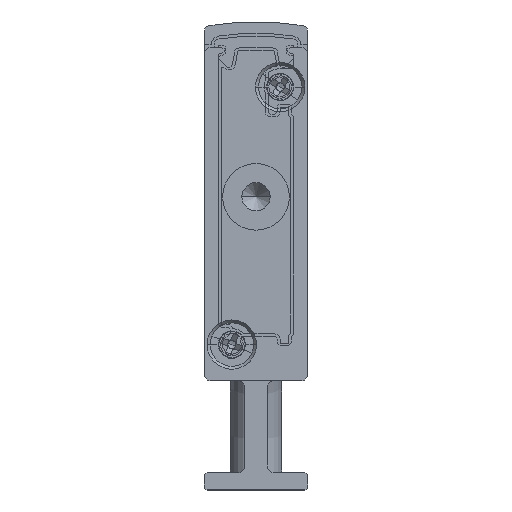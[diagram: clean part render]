
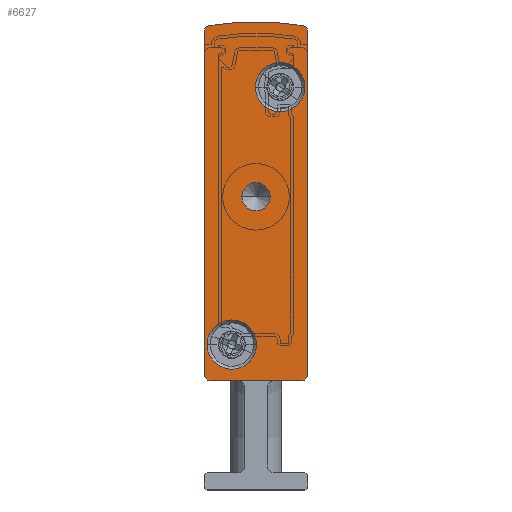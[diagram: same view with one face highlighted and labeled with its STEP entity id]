
A CAD part, front view. The second image highlights one B-rep face of the part: STEP entity #6627.
In plain terms, the highlighted planar face has unit normal (0, -1, 0).
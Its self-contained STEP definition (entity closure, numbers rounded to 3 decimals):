
#663 = CARTESIAN_POINT ( 'NONE',  ( 4.5, -2.5, 17.092 ) ) ;
#718 = ORIENTED_EDGE ( 'NONE', *, *, #5635, .F. ) ;
#758 = CARTESIAN_POINT ( 'NONE',  ( 8.5, -2.5, 39.902 ) ) ;
#771 = ORIENTED_EDGE ( 'NONE', *, *, #19531, .F. ) ;
#1270 = CARTESIAN_POINT ( 'NONE',  ( 2.4, -2.5, 12.65 ) ) ;
#1315 = ORIENTED_EDGE ( 'NONE', *, *, #13215, .T. ) ;
#1468 = CIRCLE ( 'NONE', #13865, 0.5 ) ;
#1487 = VERTEX_POINT ( 'NONE', #17128 ) ;
#1693 = DIRECTION ( 'NONE',  ( 0., -1., 0. ) ) ;
#1925 = AXIS2_PLACEMENT_3D ( 'NONE', #5930, #15158, #7639 ) ;
#2145 = EDGE_CURVE ( 'NONE', #7724, #4573, #16321, .T. ) ;
#2199 = AXIS2_PLACEMENT_3D ( 'NONE', #10268, #11824, #13318 ) ;
#2271 = AXIS2_PLACEMENT_3D ( 'NONE', #19669, #6292, #12348 ) ;
#2578 = CIRCLE ( 'NONE', #19560, 2.15 ) ;
#3015 = ORIENTED_EDGE ( 'NONE', *, *, #4322, .F. ) ;
#3036 = VECTOR ( 'NONE', #16471, 1000. ) ;
#3064 = ORIENTED_EDGE ( 'NONE', *, *, #5894, .F. ) ;
#3106 = VERTEX_POINT ( 'NONE', #18220 ) ;
#3183 = DIRECTION ( 'NONE',  ( 0., 1., 0. ) ) ;
#3215 = DIRECTION ( 'NONE',  ( -1., 0., 0. ) ) ;
#3245 = ORIENTED_EDGE ( 'NONE', *, *, #7806, .F. ) ;
#3405 = FACE_OUTER_BOUND ( 'NONE', #8937, .T. ) ;
#3584 = DIRECTION ( 'NONE',  ( -1., 0., 0. ) ) ;
#3603 = DIRECTION ( 'NONE',  ( -1., 0., 0. ) ) ;
#3708 = CARTESIAN_POINT ( 'NONE',  ( 0.408, -2.5, 40.393 ) ) ;
#3792 = ORIENTED_EDGE ( 'NONE', *, *, #15640, .F. ) ;
#3882 = CARTESIAN_POINT ( 'NONE',  ( 0.25, -2.5, 12.65 ) ) ;
#4086 = CIRCLE ( 'NONE', #18581, 2.15 ) ;
#4322 = EDGE_CURVE ( 'NONE', #18426, #3106, #19568, .T. ) ;
#4408 = CIRCLE ( 'NONE', #5046, 0.5 ) ;
#4573 = VERTEX_POINT ( 'NONE', #11790 ) ;
#4577 = CARTESIAN_POINT ( 'NONE',  ( 5.75, -2.5, 25.5 ) ) ;
#4641 = VERTEX_POINT ( 'NONE', #10774 ) ;
#5046 = AXIS2_PLACEMENT_3D ( 'NONE', #12747, #14225, #5194 ) ;
#5194 = DIRECTION ( 'NONE',  ( -1., 0., 0. ) ) ;
#5390 = EDGE_CURVE ( 'NONE', #1487, #11576, #7984, .T. ) ;
#5441 = VERTEX_POINT ( 'NONE', #13166 ) ;
#5451 = CARTESIAN_POINT ( 'NONE',  ( 0., -2.5, 39.902 ) ) ;
#5495 = ORIENTED_EDGE ( 'NONE', *, *, #8884, .F. ) ;
#5512 = DIRECTION ( 'NONE',  ( 0., 1., 0. ) ) ;
#5635 = EDGE_CURVE ( 'NONE', #10142, #15099, #1468, .T. ) ;
#5872 = DIRECTION ( 'NONE',  ( 1., 0., 0. ) ) ;
#5880 = VECTOR ( 'NONE', #17646, 1000. ) ;
#5894 = EDGE_CURVE ( 'NONE', #17593, #18176, #4086, .T. ) ;
#5930 = CARTESIAN_POINT ( 'NONE',  ( 4.5, -2.5, 25.5 ) ) ;
#6292 = DIRECTION ( 'NONE',  ( 0., 1., 0. ) ) ;
#6618 = LINE ( 'NONE', #15119, #3036 ) ;
#6627 = ADVANCED_FACE ( 'NONE', ( #7468, #15498, #3405, #10993 ), #15868, .F. ) ;
#6755 = AXIS2_PLACEMENT_3D ( 'NONE', #758, #5512, #11376 ) ;
#6877 = ORIENTED_EDGE ( 'NONE', *, *, #5390, .F. ) ;
#7468 = FACE_BOUND ( 'NONE', #16645, .T. ) ;
#7533 = AXIS2_PLACEMENT_3D ( 'NONE', #11435, #14397, #19126 ) ;
#7597 = CARTESIAN_POINT ( 'NONE',  ( 4.45, -2.5, 35.05 ) ) ;
#7639 = DIRECTION ( 'NONE',  ( -1., 0., 0. ) ) ;
#7724 = VERTEX_POINT ( 'NONE', #4577 ) ;
#7806 = EDGE_CURVE ( 'NONE', #4641, #10807, #8247, .T. ) ;
#7808 = CARTESIAN_POINT ( 'NONE',  ( 8.75, -2.5, 35.05 ) ) ;
#7984 = CIRCLE ( 'NONE', #7533, 2.15 ) ;
#8011 = VERTEX_POINT ( 'NONE', #18934 ) ;
#8067 = CARTESIAN_POINT ( 'NONE',  ( 0.5, -2.5, 39.902 ) ) ;
#8247 = LINE ( 'NONE', #12597, #10813 ) ;
#8586 = EDGE_CURVE ( 'NONE', #11576, #1487, #2578, .T. ) ;
#8884 = EDGE_CURVE ( 'NONE', #15099, #18426, #19613, .T. ) ;
#8937 = EDGE_LOOP ( 'NONE', ( #718, #3792, #771, #3245, #10337, #10313, #3015, #5495 ) ) ;
#9166 = CARTESIAN_POINT ( 'NONE',  ( 0.5, -2.5, 9.5 ) ) ;
#9367 = EDGE_LOOP ( 'NONE', ( #6877, #15647 ) ) ;
#9403 = EDGE_CURVE ( 'NONE', #8011, #4641, #4408, .T. ) ;
#9948 = ORIENTED_EDGE ( 'NONE', *, *, #14104, .F. ) ;
#9963 = CARTESIAN_POINT ( 'NONE',  ( 8.592, -2.5, 40.393 ) ) ;
#10142 = VERTEX_POINT ( 'NONE', #5451 ) ;
#10268 = CARTESIAN_POINT ( 'NONE',  ( 6.6, -2.5, 35.05 ) ) ;
#10313 = ORIENTED_EDGE ( 'NONE', *, *, #16470, .F. ) ;
#10337 = ORIENTED_EDGE ( 'NONE', *, *, #9403, .F. ) ;
#10420 = CIRCLE ( 'NONE', #12881, 1.25 ) ;
#10565 = CARTESIAN_POINT ( 'NONE',  ( 4.5, -2.5, 25.5 ) ) ;
#10774 = CARTESIAN_POINT ( 'NONE',  ( 8.5, -2.5, 9.5 ) ) ;
#10807 = VERTEX_POINT ( 'NONE', #9166 ) ;
#10813 = VECTOR ( 'NONE', #15407, 1000. ) ;
#10993 = FACE_BOUND ( 'NONE', #13199, .T. ) ;
#11290 = DIRECTION ( 'NONE',  ( 0., 1., 0. ) ) ;
#11376 = DIRECTION ( 'NONE',  ( -1., 0., 0. ) ) ;
#11435 = CARTESIAN_POINT ( 'NONE',  ( 2.4, -2.5, 12.65 ) ) ;
#11576 = VERTEX_POINT ( 'NONE', #3882 ) ;
#11612 = ORIENTED_EDGE ( 'NONE', *, *, #2145, .T. ) ;
#11782 = DIRECTION ( 'NONE',  ( 0., -1., 0. ) ) ;
#11790 = CARTESIAN_POINT ( 'NONE',  ( 3.25, -2.5, 25.5 ) ) ;
#11824 = DIRECTION ( 'NONE',  ( 0., -1., 0. ) ) ;
#12100 = DIRECTION ( 'NONE',  ( -1., 0., 0. ) ) ;
#12210 = CARTESIAN_POINT ( 'NONE',  ( 6.6, -2.5, 35.05 ) ) ;
#12348 = DIRECTION ( 'NONE',  ( -1., 0., 0. ) ) ;
#12597 = CARTESIAN_POINT ( 'NONE',  ( 0.5, -2.5, 9.5 ) ) ;
#12693 = DIRECTION ( 'NONE',  ( 0., 1., 0. ) ) ;
#12747 = CARTESIAN_POINT ( 'NONE',  ( 8.5, -2.5, 10. ) ) ;
#12881 = AXIS2_PLACEMENT_3D ( 'NONE', #10565, #18280, #3215 ) ;
#13166 = CARTESIAN_POINT ( 'NONE',  ( 0., -2.5, 10. ) ) ;
#13199 = EDGE_LOOP ( 'NONE', ( #1315, #11612 ) ) ;
#13215 = EDGE_CURVE ( 'NONE', #4573, #7724, #10420, .T. ) ;
#13318 = DIRECTION ( 'NONE',  ( 1., 0., 0. ) ) ;
#13865 = AXIS2_PLACEMENT_3D ( 'NONE', #18250, #3183, #12100 ) ;
#13911 = LINE ( 'NONE', #19276, #5880 ) ;
#14104 = EDGE_CURVE ( 'NONE', #18176, #17593, #17335, .T. ) ;
#14225 = DIRECTION ( 'NONE',  ( 0., 1., 0. ) ) ;
#14397 = DIRECTION ( 'NONE',  ( 0., -1., 0. ) ) ;
#15099 = VERTEX_POINT ( 'NONE', #3708 ) ;
#15119 = CARTESIAN_POINT ( 'NONE',  ( 9., -2.5, 39.902 ) ) ;
#15158 = DIRECTION ( 'NONE',  ( 0., 1., 0. ) ) ;
#15219 = DIRECTION ( 'NONE',  ( 1., 0., 0. ) ) ;
#15407 = DIRECTION ( 'NONE',  ( -1., 0., 0. ) ) ;
#15498 = FACE_BOUND ( 'NONE', #9367, .T. ) ;
#15640 = EDGE_CURVE ( 'NONE', #5441, #10142, #13911, .T. ) ;
#15647 = ORIENTED_EDGE ( 'NONE', *, *, #8586, .F. ) ;
#15759 = CIRCLE ( 'NONE', #2271, 0.5 ) ;
#15868 = PLANE ( 'NONE',  #17628 ) ;
#16321 = CIRCLE ( 'NONE', #1925, 1.25 ) ;
#16470 = EDGE_CURVE ( 'NONE', #3106, #8011, #6618, .T. ) ;
#16471 = DIRECTION ( 'NONE',  ( 0., 0., -1. ) ) ;
#16645 = EDGE_LOOP ( 'NONE', ( #3064, #9948 ) ) ;
#17128 = CARTESIAN_POINT ( 'NONE',  ( 4.55, -2.5, 12.65 ) ) ;
#17335 = CIRCLE ( 'NONE', #2199, 2.15 ) ;
#17593 = VERTEX_POINT ( 'NONE', #7808 ) ;
#17628 = AXIS2_PLACEMENT_3D ( 'NONE', #8067, #11290, #3603 ) ;
#17646 = DIRECTION ( 'NONE',  ( 0., 0., 1. ) ) ;
#18176 = VERTEX_POINT ( 'NONE', #7597 ) ;
#18220 = CARTESIAN_POINT ( 'NONE',  ( 9., -2.5, 39.902 ) ) ;
#18250 = CARTESIAN_POINT ( 'NONE',  ( 0.5, -2.5, 39.902 ) ) ;
#18280 = DIRECTION ( 'NONE',  ( 0., 1., 0. ) ) ;
#18426 = VERTEX_POINT ( 'NONE', #9963 ) ;
#18581 = AXIS2_PLACEMENT_3D ( 'NONE', #12210, #1693, #15219 ) ;
#18934 = CARTESIAN_POINT ( 'NONE',  ( 9., -2.5, 10. ) ) ;
#19126 = DIRECTION ( 'NONE',  ( 1., 0., 0. ) ) ;
#19276 = CARTESIAN_POINT ( 'NONE',  ( 0., -2.5, 39.902 ) ) ;
#19344 = AXIS2_PLACEMENT_3D ( 'NONE', #663, #12693, #3584 ) ;
#19531 = EDGE_CURVE ( 'NONE', #10807, #5441, #15759, .T. ) ;
#19560 = AXIS2_PLACEMENT_3D ( 'NONE', #1270, #11782, #5872 ) ;
#19568 = CIRCLE ( 'NONE', #6755, 0.5 ) ;
#19613 = CIRCLE ( 'NONE', #19344, 23.658 ) ;
#19669 = CARTESIAN_POINT ( 'NONE',  ( 0.5, -2.5, 10. ) ) ;
